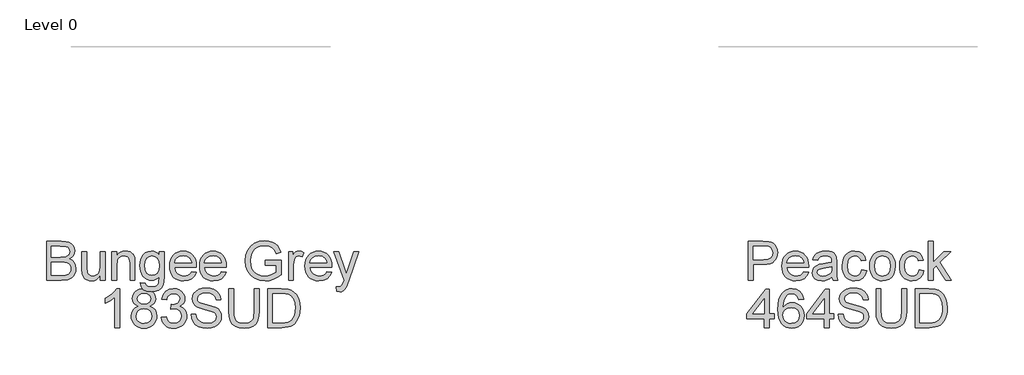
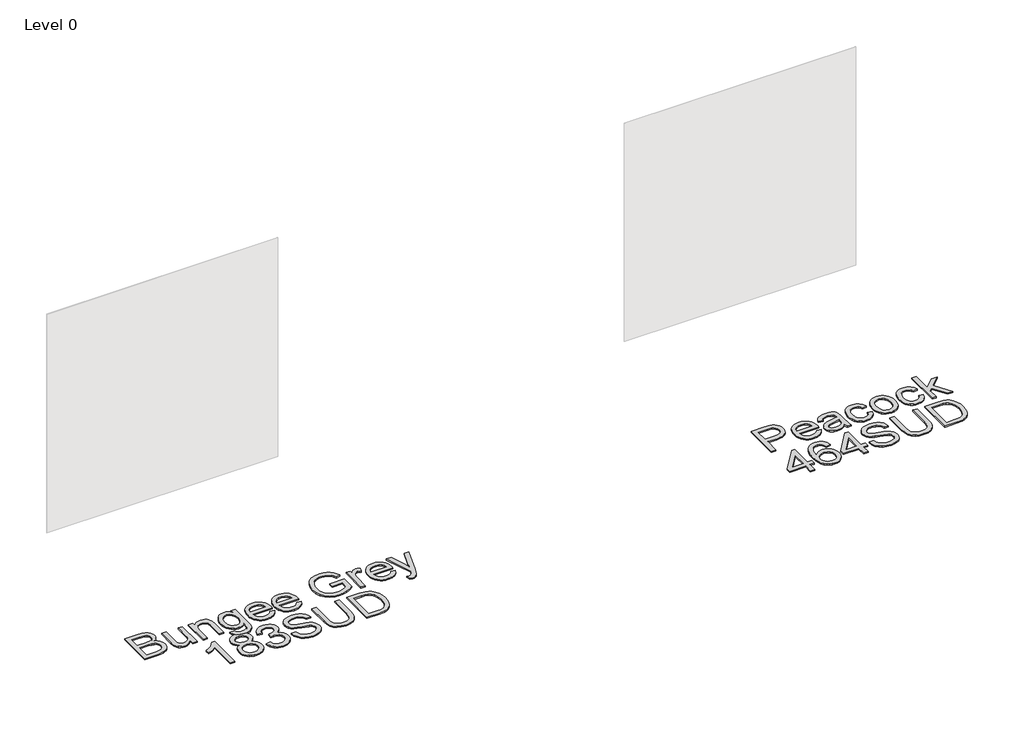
# One storey, part 2 of 37: 2 proxies.
"""IFC4 building model written with IfcOpenShell, lengths in millimetres."""

from ifc_helpers import new_model, si_unit, origin, origin_with_axes, place, context, project, spatial, polyline, outline, extrude, element, save

model = new_model("IFC4")

# Units and contexts
model_context = context("Model", 3, world=origin())
ifc_project = project(units=[si_unit("LENGTHUNIT", "METRE", prefix="MILLI")], contexts=[model_context])

# Site, building, storey
site = spatial("IfcSite", under=ifc_project)
building = spatial("IfcBuilding", under=site)
storey = spatial("IfcBuildingStorey", under=building, Name="Level 0", Elevation=0.0)

# Proxies
placement = place(None, origin())
element("IfcBuildingElementProxy", 1, Name="300mm Arial", ObjectType="300mm Arial", at=placement, inside=storey, context=model_context, shape_type="SweptSolid", body=[
    extrude(outline(polyline([(-10642.0071095, -51871.860494), (-10642.0071095, -51570.4915635), (-10527.0071978, -51570.4915635), (-10495.3785433, -51572.7080526), (-10470.6844643, -51579.3575196), (-10451.7569357, -51590.6055116), (-10437.427932, -51606.6175755), (-10428.405626, -51625.4531336), (-10425.3981907, -51645.1716086), (-10427.9273794, -51663.317388), (-10435.5149456, -51680.3779155), (-10448.2160715, -51695.3047274), (-10466.0859394, -51707.0493601), (-10444.7395866, -51718.1961846), (-10428.9666461, -51735.1555446), (-10419.2269703, -51756.8054), (-10415.9804117, -51782.0237108), (-10418.1969007, -51803.0389697), (-10424.8463677, -51822.5275184), (-10434.7699846, -51839.1006023), (-10446.8089228, -51851.3694668), (-10461.5517938, -51860.253817), (-10479.5872086, -51866.6733578), (-10527.8901146, -51871.860494), (-10642.0071095, -51871.860494)]), holes=[polyline([(-10604.3359932, -51692.9226915), (-10535.5420601, -51692.9226915), (-10495.3693462, -51689.68533), (-10481.3070569, -51684.1027207), (-10471.1994991, -51675.7426024), (-10465.1018551, -51664.7337336), (-10463.069307, -51651.2048733), (-10464.9638993, -51638.071486), (-10470.6476761, -51626.630356), (-10479.8631201, -51617.7000206), (-10492.3527139, -51612.0990172), (-10540.7659844, -51608.1626798), (-10604.3359932, -51608.1626798), (-10604.3359932, -51692.9226915)]), polyline([(-10604.3359932, -51834.1893777), (-10527.0807742, -51834.1893777), (-10499.1217426, -51832.7178497), (-10475.4669303, -51824.5140812), (-10459.7951573, -51807.7754504), (-10455.1874353, -51795.9480443), (-10453.651528, -51782.3915928), (-10455.4541497, -51766.6462434), (-10460.8620151, -51753.1081859), (-10470.3073853, -51742.5223815), (-10484.2225218, -51735.6337912), (-10503.9317996, -51731.8538037), (-10530.7595941, -51730.5938078), (-10604.3359932, -51730.5938078), (-10604.3359932, -51834.1893777)])]), origin_with_axes(), (0.0, 0.0, 1.0), 10.0),
    extrude(outline(polyline([(-10227.6248301, -51871.860494), (-10227.6248301, -51833.8214957), (-10241.254858, -51852.5236966), (-10257.1289661, -51865.8824116), (-10275.2471544, -51873.8976405), (-10295.6094228, -51876.5693835), (-10313.9575373, -51874.6931853), (-10331.036459, -51869.0645908), (-10345.3654627, -51860.6033049), (-10355.4638234, -51850.2290327), (-10366.6842243, -51822.4907302), (-10368.8915163, -51787.4683643), (-10368.8915163, -51650.5426857), (-10331.2204, -51650.5426857), (-10331.2204, -51769.7364521), (-10328.9395316, -51808.1433324), (-10323.4488928, -51820.9548229), (-10314.0403108, -51830.6944987), (-10301.3391849, -51836.8473251), (-10285.9709146, -51838.8982672), (-10269.7197274, -51836.8013398), (-10254.517004, -51830.5105577), (-10241.981425, -51820.605335), (-10233.7316712, -51807.6650858), (-10229.1515404, -51789.9423707), (-10227.6248301, -51765.6897502), (-10227.6248301, -51650.5426857), (-10189.9537138, -51650.5426857), (-10189.9537138, -51871.860494), (-10227.6248301, -51871.860494)])), origin_with_axes(), (0.0, 0.0, 1.0), 10.0),
    extrude(outline(polyline([(-10138.1559289, -51871.860494), (-10138.1559289, -51650.5426857), (-10100.4848126, -51650.5426857), (-10100.4848126, -51681.4447733), (-10087.3974106, -51665.8649708), (-10071.6796524, -51654.7365404), (-10053.3315379, -51648.0594822), (-10032.3530671, -51645.8337961), (-10013.7842234, -51647.6272209), (-9996.7788781, -51653.007495), (-9982.5970272, -51661.303234), (-9972.4986665, -51671.8430532), (-9961.2046892, -51699.5445674), (-9959.2181264, -51735.964885), (-9959.2181264, -51871.860494), (-9996.8892427, -51871.860494), (-9996.8892427, -51741.0416565), (-10001.2302503, -51707.7115477), (-10007.2359239, -51697.7879309), (-10016.5709295, -51690.0900002), (-10028.5362914, -51685.1511844), (-10042.4330337, -51683.5049125), (-10064.4967564, -51687.2021265), (-10083.3047234, -51698.2937687), (-10090.8210124, -51707.3482643), (-10096.1897903, -51719.7228949), (-10100.4848126, -51754.4325611), (-10100.4848126, -51871.860494), (-10138.1559289, -51871.860494)])), origin_with_axes(), (0.0, 0.0, 1.0), 10.0),
    extrude(outline(polyline([(-9916.8381206, -51890.6960521), (-9879.1670043, -51895.4049417), (-9875.0099377, -51907.1771655), (-9866.953322, -51915.2705694), (-9851.1160022, -51921.5613515), (-9830.3858517, -51923.6582789), (-9808.2761438, -51921.28544), (-9791.8318186, -51914.1669234), (-9780.4274768, -51902.7625816), (-9773.4377189, -51887.532267), (-9770.8625449, -51843.6071568), (-9783.3981239, -51855.9679918), (-9797.3868368, -51864.7971597), (-9812.8286835, -51870.0946604), (-9829.7236641, -51871.860494), (-9850.3779389, -51869.8049533), (-9868.5628058, -51863.6383314), (-9884.2782648, -51853.3606281), (-9897.5243158, -51838.9718436), (-9908.0342446, -51821.708981), (-9915.5413366, -51802.8090435), (-9920.0455917, -51782.2720311), (-9921.5470101, -51760.0979438), (-9918.8522745, -51729.6832999), (-9910.7680677, -51701.7150712), (-9897.5794981, -51678.0142737), (-9879.5716745, -51660.4019232), (-9857.360799, -51649.4758279), (-9831.5630741, -51645.8337961), (-9813.9461251, -51647.8939353), (-9797.9570539, -51654.0743528), (-9783.5958605, -51664.3750487), (-9770.8625449, -51678.7960229), (-9770.8625449, -51650.5426857), (-9733.1914286, -51650.5426857), (-9733.1914286, -51841.620594), (-9735.7666026, -51885.7388422), (-9743.4921245, -51914.7923228), (-9756.8002556, -51934.0601423), (-9776.1232574, -51948.8214074), (-9801.0380656, -51958.2023982), (-9831.1216157, -51961.3293952), (-9866.1715728, -51956.9240083), (-9893.7719195, -51943.7078476), (-9904.1668851, -51933.7865301), (-9911.4762405, -51921.644125), (-9915.6999857, -51907.2806323), (-9916.8381206, -51890.6960521)]), holes=[polyline([(-9883.8758938, -51757.5227699), (-9879.856783, -51792.0760863), (-9867.7994506, -51815.8320661), (-9849.6720653, -51829.6000498), (-9827.4427958, -51834.1893777), (-9805.3790731, -51829.6276409), (-9787.1597173, -51815.9424307), (-9774.936838, -51792.4899535), (-9770.8625449, -51758.6264159), (-9775.0563997, -51725.9676917), (-9787.6379639, -51702.4508352), (-9806.1240341, -51688.2413931), (-9828.031407, -51683.5049125), (-9849.5433066, -51688.1678167), (-9867.5787214, -51702.1565296), (-9879.8016007, -51725.3238983), (-9883.8758938, -51757.5227699)])]), origin_with_axes(), (0.0, 0.0, 1.0), 10.0),
    extrude(outline(polyline([(-9521.7328578, -51805.9360404), (-9484.7975055, -51810.64493), (-9498.1056366, -51838.4752029), (-9519.3416248, -51859.2789297), (-9548.0272234, -51872.2467701), (-9583.6841858, -51876.5693835), (-9607.058488, -51874.7046817), (-9627.8852075, -51869.1105761), (-9646.1643441, -51859.7870668), (-9661.8958979, -51846.7341537), (-9674.54644, -51830.3151204), (-9683.5825416, -51810.8932503), (-9689.0042025, -51788.4685435), (-9690.8114228, -51763.0409998), (-9688.9858084, -51736.7512327), (-9683.5089652, -51713.5792656), (-9674.3808931, -51693.5250983), (-9661.6015923, -51676.5887309), (-9645.9114252, -51663.133447), (-9628.0507544, -51653.5225298), (-9608.0195797, -51647.7559796), (-9585.8179013, -51645.8337961), (-9564.3312936, -51647.751381), (-9544.9002264, -51653.5041357), (-9527.5246999, -51663.0920602), (-9512.2047141, -51676.5151545), (-9499.6990255, -51693.4147337), (-9490.7663908, -51713.4321128), (-9485.40681, -51736.5672917), (-9483.6202831, -51762.8202706), (-9483.8410123, -51772.9738137), (-9653.1403065, -51772.9738137), (-9646.6195981, -51801.1719686), (-9631.4720569, -51821.902119), (-9609.6106694, -51834.6492302), (-9582.9484218, -51838.8982672), (-9562.898853, -51836.9300985), (-9546.0130695, -51831.0255925), (-9532.291071, -51820.8168671), (-9521.7328578, -51805.9360404)]), holes=[polyline([(-9653.1403065, -51735.3026974), (-9521.2913994, -51735.3026974), (-9526.386565, -51715.4002814), (-9536.3745612, -51701.1632482), (-9558.3371163, -51687.9194964), (-9585.9650541, -51683.5049125), (-9611.3581089, -51687.0273826), (-9632.3549737, -51697.5947929), (-9646.9506919, -51714.0667092), (-9653.1403065, -51735.3026974)])]), origin_with_axes(), (0.0, 0.0, 1.0), 10.0),
    extrude(outline(polyline([(-9290.9972704, -51805.9360404), (-9254.0619181, -51810.64493), (-9267.3700493, -51838.4752029), (-9288.6060374, -51859.2789297), (-9317.291636, -51872.2467701), (-9352.9485984, -51876.5693835), (-9376.3229007, -51874.7046817), (-9397.1496201, -51869.1105761), (-9415.4287567, -51859.7870668), (-9431.1603106, -51846.7341537), (-9443.8108527, -51830.3151204), (-9452.8469542, -51810.8932503), (-9458.2686151, -51788.4685435), (-9460.0758354, -51763.0409998), (-9458.250221, -51736.7512327), (-9452.7733778, -51713.5792656), (-9443.6453058, -51693.5250983), (-9430.866005, -51676.5887309), (-9415.1758379, -51663.133447), (-9397.315167, -51653.5225298), (-9377.2839924, -51647.7559796), (-9355.082314, -51645.8337961), (-9333.5957062, -51647.751381), (-9314.164639, -51653.5041357), (-9296.7891126, -51663.0920602), (-9281.4691267, -51676.5151545), (-9268.9634382, -51693.4147337), (-9260.0308035, -51713.4321128), (-9254.6712226, -51736.5672917), (-9252.8846957, -51762.8202706), (-9253.1054249, -51772.9738137), (-9422.4047191, -51772.9738137), (-9415.8840107, -51801.1719686), (-9400.7364696, -51821.902119), (-9378.875082, -51834.6492302), (-9352.2128344, -51838.8982672), (-9332.1632657, -51836.9300985), (-9315.2774821, -51831.0255925), (-9301.5554837, -51820.8168671), (-9290.9972704, -51805.9360404)]), holes=[polyline([(-9422.4047191, -51735.3026974), (-9290.555812, -51735.3026974), (-9295.6509776, -51715.4002814), (-9305.6389738, -51701.1632482), (-9327.6015289, -51687.9194964), (-9355.2294668, -51683.5049125), (-9380.6225215, -51687.0273826), (-9401.6193864, -51697.5947929), (-9416.2151045, -51714.0667092), (-9422.4047191, -51735.3026974)])]), origin_with_axes(), (0.0, 0.0, 1.0), 10.0),
    extrude(outline(polyline([(-8951.5157653, -51754.1382555), (-8951.5157653, -51716.4671392), (-8829.0846373, -51716.4671392), (-8829.0846373, -51829.1126061), (-8858.8370936, -51849.8059684), (-8889.5276491, -51864.6500069), (-8921.0827272, -51873.5895394), (-8953.4287516, -51876.5693835), (-8995.6891958, -51871.8329028), (-9033.884544, -51857.6234608), (-9065.6143661, -51834.437698), (-9088.4782321, -51802.7722553), (-9102.301398, -51764.7884393), (-9106.90912, -51722.6475567), (-9102.3197921, -51680.2031715), (-9088.5518085, -51640.7202364), (-9066.1753861, -51607.6016598), (-9035.7607421, -51584.2503502), (-8998.7150252, -51570.399593), (-8956.445384, -51565.782674), (-8925.4145377, -51568.4590155), (-8897.5106884, -51576.4880401), (-8874.0122259, -51589.2903335), (-8856.1975403, -51606.2864817), (-8843.0181678, -51628.295022), (-8833.4256448, -51656.134492), (-8868.1537051, -51665.9201531), (-8875.9068182, -51646.0637224), (-8885.3337943, -51631.0817281), (-8897.804994, -51619.7877509), (-8914.6907775, -51610.9953712), (-8934.8231197, -51605.3391855), (-8957.0339952, -51603.4537903), (-8983.0340552, -51605.4863383), (-9005.2633247, -51611.5839824), (-9023.6390304, -51620.9833674), (-9038.0783987, -51632.9211381), (-9057.4657799, -51661.9470275), (-9066.2949477, -51690.3843058), (-9069.2380037, -51721.1024524), (-9065.6971395, -51757.1272967), (-9055.0745469, -51786.7693885), (-9037.6921226, -51809.8171955), (-9013.8717634, -51826.0591856), (-8985.9955052, -51835.6884968), (-8956.445384, -51838.8982672), (-8930.3533535, -51836.4794431), (-8904.9051165, -51829.2229707), (-8882.8046056, -51819.2257775), (-8866.7557536, -51808.5847908), (-8866.7557536, -51754.1382555), (-8951.5157653, -51754.1382555)])), origin_with_axes(), (0.0, 0.0, 1.0), 10.0),
    extrude(outline(polyline([(-8772.5779628, -51871.860494), (-8772.5779628, -51650.5426857), (-8739.615736, -51650.5426857), (-8739.615736, -51683.2841833), (-8727.438842, -51664.3014723), (-8716.2184411, -51653.1178596), (-8704.9612521, -51647.654812), (-8692.6739934, -51645.8337961), (-8673.9120117, -51648.7400639), (-8654.8557243, -51657.4588672), (-8667.4372886, -51691.2304343), (-8680.6810404, -51685.4362929), (-8693.9247922, -51683.5049125), (-8705.1727842, -51685.3627165), (-8715.2251597, -51690.9361288), (-8723.3461548, -51699.8020848), (-8728.8000054, -51711.5375205), (-8733.3801362, -51732.5803706), (-8734.9068465, -51755.5362071), (-8734.9068465, -51871.860494), (-8772.5779628, -51871.860494)])), origin_with_axes(), (0.0, 0.0, 1.0), 10.0),
    extrude(outline(polyline([(-8476.3593803, -51805.9360404), (-8439.424028, -51810.64493), (-8452.7321591, -51838.4752029), (-8473.9681473, -51859.2789297), (-8502.6537459, -51872.2467701), (-8538.3107083, -51876.5693835), (-8561.6850105, -51874.7046817), (-8582.51173, -51869.1105761), (-8600.7908666, -51859.7870668), (-8616.5224204, -51846.7341537), (-8629.1729626, -51830.3151204), (-8638.2090641, -51810.8932503), (-8643.630725, -51788.4685435), (-8645.4379453, -51763.0409998), (-8643.6123309, -51736.7512327), (-8638.1354877, -51713.5792656), (-8629.0074157, -51693.5250983), (-8616.2281148, -51676.5887309), (-8600.5379478, -51663.133447), (-8582.6772769, -51653.5225298), (-8562.6461022, -51647.7559796), (-8540.4444238, -51645.8337961), (-8518.9578161, -51647.751381), (-8499.5267489, -51653.5041357), (-8482.1512224, -51663.0920602), (-8466.8312366, -51676.5151545), (-8454.325548, -51693.4147337), (-8445.3929133, -51713.4321128), (-8440.0333325, -51736.5672917), (-8438.2468056, -51762.8202706), (-8438.4675348, -51772.9738137), (-8607.766829, -51772.9738137), (-8601.2461206, -51801.1719686), (-8586.0985794, -51821.902119), (-8564.2371919, -51834.6492302), (-8537.5749443, -51838.8982672), (-8517.5253755, -51836.9300985), (-8500.639592, -51831.0255925), (-8486.9175935, -51820.8168671), (-8476.3593803, -51805.9360404)]), holes=[polyline([(-8607.766829, -51735.3026974), (-8475.9179219, -51735.3026974), (-8481.0130875, -51715.4002814), (-8491.0010837, -51701.1632482), (-8512.9636388, -51687.9194964), (-8540.5915766, -51683.5049125), (-8565.9846314, -51687.0273826), (-8586.9814962, -51697.5947929), (-8601.5772144, -51714.0667092), (-8607.766829, -51735.3026974)])]), origin_with_axes(), (0.0, 0.0, 1.0), 10.0),
    extrude(outline(polyline([(-8400.5756893, -51956.6205057), (-8405.2845788, -51920.3473409), (-8386.1547151, -51923.6582789), (-8368.2756501, -51919.5012124), (-8357.3127666, -51907.9129295), (-8347.0120708, -51880.1746271), (-8344.0690148, -51871.0511536), (-8424.120137, -51650.5426857), (-8384.3888815, -51650.5426857), (-8341.9352992, -51773.4152721), (-8327.146443, -51822.5643066), (-8312.3575868, -51779.1542312), (-8268.7267822, -51650.5426857), (-8229.2898323, -51650.5426857), (-8306.3243221, -51877.1579947), (-8326.3371026, -51926.3070293), (-8336.5826162, -51941.9971964), (-8348.1892932, -51952.8681093), (-8361.6721683, -51959.2140737), (-8377.5462764, -51961.3293952), (-8400.5756893, -51956.6205057)])), origin_with_axes(), (0.0, 0.0, 1.0), 10.0),
    extrude(outline(polyline([(-10076.9403649, -52237.7849475), (-10114.6114812, -52237.7849475), (-10114.6114812, -52002.9290818), (-10150.2960347, -52028.3497277), (-10189.9537138, -52047.3692268), (-10189.9537138, -52011.7582497), (-10160.3668044, -51995.6634124), (-10134.7346263, -51976.5151545), (-10114.5287078, -51956.1528861), (-10101.2205766, -51936.4160171), (-10076.9403649, -51936.4160171), (-10076.9403649, -52237.7849475)])), origin_with_axes(), (0.0, 0.0, 1.0), 10.0),
    extrude(outline(polyline([(-9932.58347, -52071.7965913), (-9952.7526004, -52061.8637774), (-9966.9068601, -52048.3992964), (-9975.2669785, -52031.6790597), (-9978.0536846, -52011.9789789), (-9976.5361714, -51996.6153071), (-9971.9836317, -51982.5300252), (-9964.3960655, -51969.7231332), (-9953.7734729, -51958.1946312), (-9940.6262901, -51948.6664875), (-9925.4649534, -51941.8606706), (-9889.0998182, -51936.4160171), (-9852.5139537, -51941.9894293), (-9837.1870701, -51948.9561946), (-9823.8375522, -51958.709666), (-9813.0218216, -51970.4634957), (-9805.2962997, -51983.4313361), (-9800.6609865, -51997.613187), (-9799.1158821, -52013.0090485), (-9801.8658001, -52032.0745329), (-9810.1155538, -52048.509661), (-9823.9571139, -52061.8913686), (-9843.4824508, -52071.7965913), (-9820.296688, -52083.7435591), (-9803.4201015, -52101.3375155), (-9793.1286027, -52123.732332), (-9789.6981031, -52150.0818799), (-9791.3995573, -52168.8714528), (-9796.50392, -52186.0975272), (-9805.0111911, -52201.7601031), (-9816.9213707, -52215.8591806), (-9831.6090594, -52227.5118428), (-9848.4488577, -52235.8351729), (-9867.4407657, -52240.829171), (-9888.5847834, -52242.4938371), (-9909.728801, -52240.8222732), (-9928.720709, -52235.8075818), (-9945.5605074, -52227.4497627), (-9960.248196, -52215.748816), (-9972.1583756, -52201.5508703), (-9980.6656468, -52185.702054), (-9985.7700094, -52168.2023674), (-9987.4714637, -52149.0518103), (-9983.9030083, -52121.6813898), (-9973.1976423, -52099.1670117), (-9955.9071885, -52082.2812282), (-9932.58347, -52071.7965913)]), holes=[polyline([(-9949.8003474, -52147.7274351), (-9943.5095652, -52176.0911369), (-9934.799959, -52188.2588339), (-9921.2527045, -52197.317928), (-9905.0291086, -52202.9465226), (-9888.2904778, -52204.8227207), (-9862.6491027, -52200.8771864), (-9843.4088744, -52189.0405832), (-9831.3791331, -52171.1155329), (-9827.3692194, -52148.9046575), (-9831.5078918, -52126.316703), (-9843.9239092, -52107.9961796), (-9863.6055959, -52095.8560738), (-9889.5412766, -52091.8093718), (-9914.8239667, -52095.8008915), (-9933.871057, -52107.7754504), (-9945.8180248, -52125.7464859), (-9949.8003474, -52147.7274351)]), polyline([(-9940.3825683, -52013.0826249), (-9937.0440392, -52029.52695), (-9927.0284519, -52042.6603373), (-9910.6301119, -52051.268776), (-9888.143325, -52054.1382555), (-9866.1807699, -52051.2871701), (-9850.0307503, -52042.7339137), (-9840.0979364, -52030.0419848), (-9836.7869984, -52014.774882), (-9840.208301, -51998.9283651), (-9850.4722087, -51985.822569), (-9866.8429575, -51977.0209923), (-9888.5847834, -51974.0871334), (-9910.464565, -51976.9566129), (-9926.8077227, -51985.5650516), (-9936.9888569, -51998.1834041), (-9940.3825683, -52013.0826249)])]), origin_with_axes(), (0.0, 0.0, 1.0), 10.0),
    extrude(outline(polyline([(-9756.7358763, -52157.7338254), (-9719.06476, -52153.0249358), (-9710.6310652, -52176.6981422), (-9698.2794273, -52192.6826149), (-9681.4028407, -52201.7876943), (-9659.3943004, -52204.8227207), (-9633.5689843, -52200.6472601), (-9613.6297802, -52188.1208782), (-9600.882669, -52169.4324728), (-9596.633632, -52146.7709419), (-9600.8458808, -52125.2590422), (-9613.4826274, -52107.8122386), (-9632.6124911, -52096.2515469), (-9656.3040916, -52092.397983), (-9682.7180189, -52096.5182614), (-9678.5241641, -52058.8471451), (-9672.4908994, -52059.2886035), (-9649.921339, -52056.5846708), (-9629.7430116, -52048.4728728), (-9615.5059783, -52034.7508744), (-9610.7603006, -52015.2163404), (-9614.1999973, -51998.9467592), (-9624.5190872, -51985.7489926), (-9640.2644366, -51977.0025982), (-9659.9829116, -51974.0871334), (-9679.7381747, -51977.0301893), (-9695.8881943, -51985.8593572), (-9707.6788122, -52000.574637), (-9714.3558705, -52021.1760288), (-9752.0269868, -52016.4671392), (-9740.9353446, -51982.6403898), (-9721.1984756, -51957.3852908), (-9694.1959371, -51941.6583355), (-9661.3072867, -51936.4160171), (-9637.6248833, -51939.0003881), (-9615.8738603, -51946.7535011), (-9597.5349429, -51958.9855775), (-9584.088856, -51975.0068384), (-9575.8391022, -51993.4653175), (-9573.0891843, -52013.0090485), (-9575.7011465, -52031.2192072), (-9583.537033, -52047.7371088), (-9596.4864792, -52061.8085951), (-9614.4391206, -52072.6795081), (-9590.8578847, -52082.2076518), (-9573.3834899, -52098.4312477), (-9562.5677592, -52120.4673793), (-9558.9625157, -52147.4331295), (-9560.7651375, -52166.5445992), (-9566.1730028, -52184.1477526), (-9575.1861117, -52200.2425899), (-9587.8044641, -52214.829111), (-9603.177333, -52226.9324287), (-9620.4539912, -52235.5776555), (-9639.6344387, -52240.7647917), (-9660.7186756, -52242.4938371), (-9679.7749629, -52241.0177105), (-9697.1389931, -52236.589331), (-9712.8107661, -52229.2086985), (-9726.7902819, -52218.875813), (-9738.511922, -52206.1976797), (-9747.4100677, -52191.781304), (-9753.4847192, -52175.6266859), (-9756.7358763, -52157.7338254)])), origin_with_axes(), (0.0, 0.0, 1.0), 10.0),
    extrude(outline(polyline([(-9526.0002889, -52134.1893777), (-9488.3291726, -52134.1893777), (-9484.0065592, -52155.0942721), (-9476.1890668, -52171.8972822), (-9463.9937786, -52185.2330045), (-9446.537778, -52195.7360355), (-9425.2006222, -52202.5510494), (-9401.361869, -52204.8227207), (-9380.3742011, -52203.1028724), (-9361.9984955, -52197.9433274), (-9347.1084717, -52189.7763471), (-9336.5778496, -52179.0341929), (-9330.3146586, -52166.700949), (-9328.2269283, -52153.7606998), (-9329.7904268, -52141.1515444), (-9334.4809222, -52130.2530403), (-9344.0090659, -52120.9548229), (-9360.0855091, -52113.1465276), (-9414.9367146, -52098.7623415), (-9450.9431649, -52089.2433949), (-9473.9817748, -52080.1843008), (-9492.7345595, -52067.510766), (-9506.0242966, -52052.1516928), (-9513.9429565, -52034.4381747), (-9516.5825098, -52014.7013056), (-9513.3175571, -51992.637583), (-9503.522699, -51972.0637824), (-9487.4554529, -51954.6261758), (-9465.3733361, -51941.9710352), (-9438.8674384, -51934.2731044), (-9409.5288492, -51931.7071275), (-9377.7438449, -51934.3926661), (-9349.931966, -51942.4492818), (-9327.0864941, -51955.7114277), (-9310.2007105, -51974.013557), (-9299.5137386, -51996.2152354), (-9295.2647015, -52021.1760288), (-9332.9358179, -52021.1760288), (-9339.8519994, -51998.6984389), (-9354.2729736, -51982.4748429), (-9376.8057458, -51972.6523936), (-9408.0573213, -51969.3782438), (-9440.0446607, -51972.6156054), (-9461.9888218, -51982.3276901), (-9474.6807506, -51996.6199056), (-9478.9113935, -52013.5976597), (-9475.9131553, -52028.0738162), (-9466.9184405, -52039.7172813), (-9445.6548612, -52050.1283418), (-9405.4085709, -52060.7601314), (-9363.8746936, -52070.8584922), (-9338.7483534, -52079.669266), (-9317.2732419, -52093.3360821), (-9302.2912477, -52110.2034716), (-9293.4896709, -52130.0874934), (-9290.555812, -52152.8042066), (-9293.9311293, -52176.0267576), (-9304.0570812, -52197.869751), (-9320.5198005, -52216.668521), (-9342.9054199, -52230.7584014), (-9369.8251849, -52239.5599781), (-9399.890341, -52242.4938371), (-9436.7981021, -52239.3300519), (-9467.1759579, -52229.8386964), (-9491.3733961, -52213.9829824), (-9509.7399047, -52191.7261217), (-9521.5305227, -52164.6132187), (-9526.0002889, -52134.1893777)])), origin_with_axes(), (0.0, 0.0, 1.0), 10.0),
    extrude(outline(polyline([(-9036.2757769, -51936.4160171), (-8998.6046606, -51936.4160171), (-8998.6046606, -52110.277048), (-9001.1614405, -52150.9923878), (-9008.8317801, -52182.3451308), (-9023.1607838, -52206.533372), (-9045.693556, -52225.7552063), (-9076.485279, -52238.3091794), (-9115.5911351, -52242.4938371), (-9153.8416655, -52238.8518053), (-9184.4218564, -52227.92571), (-9207.3409047, -52210.0926303), (-9222.6080075, -52185.7296452), (-9231.188855, -52153.052527), (-9234.0491375, -52110.277048), (-9234.0491375, -51936.4160171), (-9196.3780212, -51936.4160171), (-9196.3780212, -52108.9526728), (-9194.5202172, -52142.8070134), (-9188.9468049, -52166.3790523), (-9178.8484442, -52182.7038158), (-9163.4157945, -52194.8163305), (-9143.2926493, -52202.3211232), (-9119.1228023, -52204.8227207), (-9080.8078925, -52199.8747079), (-9066.4650932, -52193.6896919), (-9055.3320643, -52185.0306694), (-9046.9949386, -52172.8537754), (-9041.0398488, -52156.1151446), (-9036.2757769, -52108.9526728), (-9036.2757769, -51936.4160171)])), origin_with_axes(), (0.0, 0.0, 1.0), 10.0),
    extrude(outline(polyline([(-8932.6802071, -52237.7849475), (-8932.6802071, -51936.4160171), (-8828.7167553, -51936.4160171), (-8774.9324076, -51940.7570246), (-8750.9097133, -51949.12634), (-8730.6394153, -51962.3149095), (-8709.7989003, -51985.270746), (-8694.9548618, -52013.8183889), (-8686.0705116, -52047.406015), (-8683.1090616, -52085.4818015), (-8685.1140184, -52117.8278259), (-8691.1288891, -52146.2926953), (-8700.2891507, -52170.5269217), (-8711.7302808, -52190.1810173), (-8724.9004562, -52205.6964405), (-8739.247854, -52217.5146496), (-8755.7197704, -52226.2794381), (-8775.2635014, -52232.6345996), (-8823.7135601, -52237.7849475), (-8932.6802071, -52237.7849475)]), holes=[polyline([(-8895.0090908, -52200.1138312), (-8828.3488733, -52200.1138312), (-8800.7761177, -52198.7526678), (-8779.8620263, -52194.6691777), (-8764.0798887, -52188.1024841), (-8751.9029947, -52179.2917103), (-8738.8155927, -52162.9853408), (-8728.9839464, -52141.8781114), (-8722.83112, -52115.8780514), (-8720.7801779, -52084.8931903), (-8724.7992887, -52043.8375597), (-8736.8566211, -52013.5240833), (-8754.6713067, -51992.7019623), (-8775.9624772, -51980.1203981), (-8797.6307267, -51975.5954496), (-8829.3789429, -51974.0871334), (-8895.0090908, -51974.0871334), (-8895.0090908, -52200.1138312)])]), origin_with_axes(), (0.0, 0.0, 1.0), 10.0),
])
element("IfcBuildingElementProxy", 2, Name="300mm Arial", ObjectType="300mm Arial", at=placement, inside=storey, context=model_context, shape_type="SweptSolid", body=[
    extrude(outline(polyline([(-5220.5614958, -51871.860494), (-5220.5614958, -51570.4915635), (-5108.8725221, -51570.4915635), (-5063.8437659, -51573.3610431), (-5043.766606, -51578.7229232), (-5027.2395073, -51587.4509235), (-5013.9313762, -51599.9405172), (-5003.5111187, -51616.5871775), (-4996.7788781, -51636.222879), (-4994.534798, -51657.6795964), (-4996.0500119, -51676.1794622), (-5000.5956538, -51693.198603), (-5008.1717237, -51708.7370188), (-5018.7782215, -51722.7947095), (-5033.3394507, -51734.4473717), (-5052.7797149, -51742.7707019), (-5077.099014, -51747.7647), (-5106.2973481, -51749.429366), (-5182.8903795, -51749.429366), (-5182.8903795, -51871.860494), (-5220.5614958, -51871.860494)]), holes=[polyline([(-5182.8903795, -51711.7582497), (-5104.0900561, -51711.7582497), (-5070.686371, -51708.3001589), (-5048.6134513, -51697.9258867), (-5036.3077985, -51681.2792264), (-5032.2059143, -51659.0039716), (-5034.6247384, -51642.0813998), (-5041.8812108, -51627.8075784), (-5053.0740205, -51617.0654241), (-5067.3018566, -51610.7378538), (-5104.9729729, -51608.1626798), (-5182.8903795, -51608.1626798), (-5182.8903795, -51711.7582497)])]), origin_with_axes(), (0.0, 0.0, 1.0), 10.0),
    extrude(outline(polyline([(-4792.4940062, -51805.9360404), (-4755.5586539, -51810.64493), (-4768.8667851, -51838.4752029), (-4790.1027733, -51859.2789297), (-4818.7883718, -51872.2467701), (-4854.4453342, -51876.5693835), (-4877.8196365, -51874.7046817), (-4898.6463559, -51869.1105761), (-4916.9254926, -51859.7870668), (-4932.6570464, -51846.7341537), (-4945.3075885, -51830.3151204), (-4954.34369, -51810.8932503), (-4959.7653509, -51788.4685435), (-4961.5725712, -51763.0409998), (-4959.7469568, -51736.7512327), (-4954.2701136, -51713.5792656), (-4945.1420416, -51693.5250983), (-4932.3627408, -51676.5887309), (-4916.6725737, -51663.133447), (-4898.8119028, -51653.5225298), (-4878.7807282, -51647.7559796), (-4856.5790498, -51645.8337961), (-4835.092442, -51647.751381), (-4815.6613749, -51653.5041357), (-4798.2858484, -51663.0920602), (-4782.9658626, -51676.5151545), (-4770.460174, -51693.4147337), (-4761.5275393, -51713.4321128), (-4756.1679585, -51736.5672917), (-4754.3814315, -51762.8202706), (-4754.6021607, -51772.9738137), (-4923.9014549, -51772.9738137), (-4917.3807465, -51801.1719686), (-4902.2332054, -51821.902119), (-4880.3718178, -51834.6492302), (-4853.7095702, -51838.8982672), (-4833.6600015, -51836.9300985), (-4816.7742179, -51831.0255925), (-4803.0522195, -51820.8168671), (-4792.4940062, -51805.9360404)]), holes=[polyline([(-4923.9014549, -51735.3026974), (-4792.0525478, -51735.3026974), (-4797.1477135, -51715.4002814), (-4807.1357096, -51701.1632482), (-4829.0982647, -51687.9194964), (-4856.7262026, -51683.5049125), (-4882.1192573, -51687.0273826), (-4903.1161222, -51697.5947929), (-4917.7118403, -51714.0667092), (-4923.9014549, -51735.3026974)])]), origin_with_axes(), (0.0, 0.0, 1.0), 10.0),
    extrude(outline(polyline([(-4575.4436291, -51843.6071568), (-4593.4422557, -51859.0398064), (-4611.9743112, -51869.1381672), (-4631.4628599, -51874.7115794), (-4652.3309661, -51876.5693835), (-4683.8124678, -51872.0996173), (-4707.0350187, -51858.6903186), (-4721.3548254, -51838.3280501), (-4726.1280943, -51812.9993748), (-4724.3254725, -51797.3827841), (-4718.9176072, -51783.2009331), (-4710.5758829, -51771.0608273), (-4699.9716844, -51761.5694718), (-4673.5945454, -51749.2086368), (-4641.0002006, -51743.5432541), (-4602.4829557, -51737.5835657), (-4575.6643583, -51730.5938078), (-4575.4436291, -51722.2060983), (-4578.0371971, -51705.3938912), (-4585.8179013, -51694.3942195), (-4603.2187197, -51686.2272392), (-4627.4621432, -51683.5049125), (-4649.9029449, -51685.3167313), (-4665.5747179, -51690.7521878), (-4676.2616898, -51700.8045633), (-4683.7480885, -51716.4671392), (-4721.4192048, -51711.7582497), (-4714.8801023, -51691.1568579), (-4705.1220324, -51674.9700502), (-4691.2344871, -51662.590821), (-4672.3069584, -51653.4121652), (-4649.1579839, -51647.7283884), (-4622.6061009, -51645.8337961), (-4597.1394697, -51647.5076592), (-4576.9519453, -51652.5292485), (-4561.7308277, -51660.0800264), (-4551.1634174, -51669.3414556), (-4544.1552654, -51680.7917827), (-4539.6119227, -51694.9092543), (-4537.7725128, -51727.8714811), (-4537.7725128, -51774.7396473), (-4535.8595264, -51840.1858542), (-4528.3547337, -51871.860494), (-4566.02585, -51871.860494), (-4575.4436291, -51843.6071568)]), holes=[polyline([(-4575.4436291, -51768.2649241), (-4636.2177347, -51779.8164188), (-4668.6281384, -51785.9232599), (-4683.3066301, -51795.8560738), (-4688.456978, -51810.3506244), (-4685.6518778, -51821.5526311), (-4677.2365771, -51830.7312869), (-4663.3950171, -51836.8565221), (-4644.3111386, -51838.8982672), (-4624.0776288, -51836.64499), (-4606.1985639, -51829.8851583), (-4591.7040133, -51819.9247533), (-4581.6240466, -51808.069756), (-4577.1542803, -51795.8560738), (-4575.6643583, -51778.933502), (-4575.4436291, -51768.2649241)])]), origin_with_axes(), (0.0, 0.0, 1.0), 10.0),
    extrude(outline(polyline([(-4344.7080417, -51791.8093718), (-4307.0369254, -51796.5182614), (-4317.5399564, -51830.0231141), (-4337.2768254, -51855.3425924), (-4364.3897284, -51871.2626857), (-4397.0208614, -51876.5693835), (-4418.1487842, -51874.7184772), (-4437.0924077, -51869.1657584), (-4453.8517319, -51859.9112269), (-4468.4267567, -51846.9548829), (-4480.2242724, -51830.5404481), (-4488.6510694, -51810.9116444), (-4493.7071475, -51788.0684718), (-4495.3925069, -51762.0109302), (-4492.5138303, -51728.4876834), (-4483.8778005, -51699.4342028), (-4469.3464617, -51675.9725286), (-4448.7818581, -51659.2247008), (-4424.1797497, -51649.1815223), (-4397.5358962, -51645.8337961), (-4365.7049066, -51650.4323211), (-4340.2566696, -51664.2278959), (-4322.0005255, -51686.4847566), (-4311.7458149, -51716.4671392), (-4349.4169312, -51721.1760288), (-4356.2503393, -51704.7409006), (-4366.891326, -51692.9594797), (-4380.7512802, -51685.8685543), (-4397.2415906, -51683.5049125), (-4421.5861816, -51688.1586197), (-4440.9091834, -51702.1197414), (-4453.5183388, -51726.1424357), (-4457.7213906, -51760.9808606), (-4453.6103093, -51796.2883351), (-4441.2770654, -51820.3938029), (-4422.3035515, -51834.2721511), (-4398.2716602, -51838.8982672), (-4378.7647174, -51836.0103936), (-4362.7710477, -51827.3467726), (-4351.1367796, -51812.6866751), (-4344.7080417, -51791.8093718)])), origin_with_axes(), (0.0, 0.0, 1.0), 10.0),
    extrude(outline(polyline([(-4283.4924777, -51761.2015898), (-4281.4553312, -51732.5389839), (-4275.3438915, -51707.8403064), (-4265.1581588, -51687.1055575), (-4250.8981329, -51670.334737), (-4236.5415381, -51659.6155754), (-4220.6950211, -51651.9590314), (-4203.3585821, -51647.3651049), (-4184.532221, -51645.8337961), (-4163.7491875, -51647.698498), (-4144.9573154, -51653.2926036), (-4128.1566045, -51662.6161129), (-4113.3470549, -51675.669026), (-4101.2598321, -51692.0098843), (-4092.6261016, -51711.1972296), (-4087.4458632, -51733.2310619), (-4085.7191171, -51758.1113811), (-4088.7725377, -51796.1687735), (-4097.9327993, -51825.1394806), (-4112.9331877, -51846.8353213), (-4133.5069883, -51863.0681143), (-4157.9435498, -51873.1940662), (-4184.532221, -51876.5693835), (-4205.6187571, -51874.7115794), (-4224.5853732, -51869.1381672), (-4241.4320693, -51859.8491468), (-4256.1588455, -51846.8445183), (-4268.1173096, -51830.3450108), (-4276.6590696, -51810.5713536), (-4281.7841257, -51787.5235466), (-4283.4924777, -51761.2015898)]), holes=[polyline([(-4245.8213614, -51761.1280134), (-4241.4619598, -51795.2214773), (-4228.3837548, -51819.5108861), (-4208.7020681, -51834.0514219), (-4184.532221, -51838.8982672), (-4160.4727385, -51834.0238308), (-4140.82784, -51819.4005215), (-4127.749635, -51794.789216), (-4123.3902334, -51759.950791), (-4127.7772262, -51726.8506085), (-4140.9382046, -51702.8922936), (-4160.6106943, -51688.3517577), (-4184.532221, -51683.5049125), (-4208.7020681, -51688.3333636), (-4228.3837548, -51702.8187172), (-4241.4619598, -51727.0529436), (-4245.8213614, -51761.1280134)])]), origin_with_axes(), (0.0, 0.0, 1.0), 10.0),
    extrude(outline(polyline([(-3902.0724251, -51791.8093718), (-3864.4013088, -51796.5182614), (-3874.9043398, -51830.0231141), (-3894.6412088, -51855.3425924), (-3921.7541118, -51871.2626857), (-3954.3852448, -51876.5693835), (-3975.5131676, -51874.7184772), (-3994.4567911, -51869.1657584), (-4011.2161153, -51859.9112269), (-4025.7911401, -51846.9548829), (-4037.5886558, -51830.5404481), (-4046.0154528, -51810.9116444), (-4051.0715309, -51788.0684718), (-4052.7568903, -51762.0109302), (-4049.8782137, -51728.4876834), (-4041.2421839, -51699.4342028), (-4026.7108451, -51675.9725286), (-4006.1462415, -51659.2247008), (-3981.5441331, -51649.1815223), (-3954.9002796, -51645.8337961), (-3923.06929, -51650.4323211), (-3897.621053, -51664.2278959), (-3879.3649089, -51686.4847566), (-3869.1101983, -51716.4671392), (-3906.7813146, -51721.1760288), (-3913.6147227, -51704.7409006), (-3924.2557094, -51692.9594797), (-3938.1156636, -51685.8685543), (-3954.605974, -51683.5049125), (-3978.950565, -51688.1586197), (-3998.2735668, -51702.1197414), (-4010.8827222, -51726.1424357), (-4015.085774, -51760.9808606), (-4010.9746927, -51796.2883351), (-3998.6414488, -51820.3938029), (-3979.6679349, -51834.2721511), (-3955.6360436, -51838.8982672), (-3936.1291008, -51836.0103936), (-3920.1354311, -51827.3467726), (-3908.501163, -51812.6866751), (-3902.0724251, -51791.8093718)])), origin_with_axes(), (0.0, 0.0, 1.0), 10.0),
    extrude(outline(polyline([(-3831.439082, -51871.860494), (-3831.439082, -51570.4915635), (-3793.7679657, -51570.4915635), (-3793.7679657, -51732.4332178), (-3709.3022596, -51650.5426857), (-3657.2101691, -51650.5426857), (-3742.7059448, -51733.4632874), (-3652.5012796, -51871.860494), (-3696.4999662, -51871.860494), (-3769.7084832, -51759.6564855), (-3793.7679657, -51782.9802039), (-3793.7679657, -51871.860494), (-3831.439082, -51871.860494)])), origin_with_axes(), (0.0, 0.0, 1.0), 10.0),
    extrude(outline(polyline([(-5095.775923, -52237.7849475), (-5095.775923, -52167.1516044), (-5232.3337197, -52167.1516044), (-5232.3337197, -52129.4804881), (-5086.358144, -51941.1249066), (-5058.1048067, -51941.1249066), (-5058.1048067, -52129.4804881), (-5020.4336904, -52129.4804881), (-5020.4336904, -52167.1516044), (-5058.1048067, -52167.1516044), (-5058.1048067, -52237.7849475), (-5095.775923, -52237.7849475)]), holes=[polyline([(-5095.775923, -52129.4804881), (-5095.775923, -52013.0826249), (-5185.9805883, -52129.4804881), (-5095.775923, -52129.4804881)])]), origin_with_axes(), (0.0, 0.0, 1.0), 10.0),
    extrude(outline(polyline([(-4794.4069926, -52016.4671392), (-4832.0781089, -52021.1760288), (-4838.1481618, -52002.5060175), (-4846.3519303, -51989.7589064), (-4863.440049, -51978.0050766), (-4884.096623, -51974.0871334), (-4901.607806, -51976.3680017), (-4918.0889194, -51983.2106069), (-4932.2431791, -51997.622384), (-4943.8038708, -52017.4604206), (-4951.6121662, -52045.5206198), (-4954.5092369, -52084.5988847), (-4939.3984839, -52066.9681401), (-4921.2894927, -52054.5429257), (-4901.1939388, -52047.1760888), (-4880.1234975, -52044.7204764), (-4862.0237033, -52046.3989381), (-4845.3218607, -52051.4343229), (-4830.0179697, -52059.8266309), (-4816.1120303, -52071.5758621), (-4804.5559371, -52085.9830407), (-4796.3015849, -52102.349191), (-4791.3489735, -52120.6743129), (-4789.6981031, -52140.9584064), (-4792.8067059, -52167.9333537), (-4802.1325145, -52192.9401323), (-4816.9029766, -52214.1485293), (-4836.3455401, -52229.7283318), (-4859.577288, -52239.3024607), (-4885.7153038, -52242.4938371), (-4908.1722003, -52240.3785156), (-4928.4539946, -52234.0325512), (-4946.5606865, -52223.4559438), (-4962.4922762, -52208.6486935), (-4975.4808099, -52188.9854009), (-4984.758334, -52163.8406665), (-4990.3248484, -52133.2144904), (-4992.1803532, -52097.1068726), (-4990.120214, -52056.6260575), (-4983.9397965, -52022.0773396), (-4973.6391007, -51993.4607189), (-4959.2181264, -51970.7761954), (-4943.5877402, -51955.7436174), (-4925.4649534, -51945.0060617), (-4904.8497661, -51938.5635282), (-4881.7421783, -51936.4160171), (-4848.687981, -51941.7319119), (-4822.2188714, -51957.6795964), (-4803.6776189, -51983.0082718), (-4794.4069926, -52016.4671392)]), holes=[polyline([(-4954.5092369, -52140.3697952), (-4952.3295361, -52157.0624407), (-4945.7904336, -52173.0009282), (-4935.6368905, -52186.7045325), (-4922.6138679, -52196.6925287), (-4906.8961097, -52202.7901727), (-4888.6583598, -52204.8227207), (-4863.7987339, -52200.6104719), (-4844.2550029, -52187.9737254), (-4831.5906653, -52168.1080976), (-4827.3692194, -52142.2092052), (-4831.535483, -52117.3495793), (-4844.0342738, -52098.3944595), (-4863.9090985, -52086.3923095), (-4890.2034641, -52082.3915928), (-4915.0263018, -52086.3923095), (-4935.7840433, -52098.3944595), (-4949.8279385, -52116.8897269), (-4954.5092369, -52140.3697952)])]), origin_with_axes(), (0.0, 0.0, 1.0), 10.0),
    extrude(outline(polyline([(-4634.3047483, -52237.7849475), (-4634.3047483, -52167.1516044), (-4770.8625449, -52167.1516044), (-4770.8625449, -52129.4804881), (-4624.8869692, -51941.1249066), (-4596.633632, -51941.1249066), (-4596.633632, -52129.4804881), (-4558.9625157, -52129.4804881), (-4558.9625157, -52167.1516044), (-4596.633632, -52167.1516044), (-4596.633632, -52237.7849475), (-4634.3047483, -52237.7849475)]), holes=[polyline([(-4634.3047483, -52129.4804881), (-4634.3047483, -52013.0826249), (-4724.5094135, -52129.4804881), (-4634.3047483, -52129.4804881)])]), origin_with_axes(), (0.0, 0.0, 1.0), 10.0),
    extrude(outline(polyline([(-4526.0002889, -52134.1893777), (-4488.3291726, -52134.1893777), (-4484.0065592, -52155.0942721), (-4476.1890668, -52171.8972822), (-4463.9937786, -52185.2330045), (-4446.537778, -52195.7360355), (-4425.2006222, -52202.5510494), (-4401.361869, -52204.8227207), (-4380.3742011, -52203.1028724), (-4361.9984955, -52197.9433274), (-4347.1084717, -52189.7763471), (-4336.5778496, -52179.0341929), (-4330.3146586, -52166.700949), (-4328.2269283, -52153.7606998), (-4329.7904268, -52141.1515444), (-4334.4809222, -52130.2530403), (-4344.0090659, -52120.9548229), (-4360.0855091, -52113.1465276), (-4414.9367146, -52098.7623415), (-4450.9431649, -52089.2433949), (-4473.9817748, -52080.1843008), (-4492.7345595, -52067.510766), (-4506.0242966, -52052.1516928), (-4513.9429565, -52034.4381747), (-4516.5825098, -52014.7013056), (-4513.3175571, -51992.637583), (-4503.522699, -51972.0637824), (-4487.4554529, -51954.6261758), (-4465.3733361, -51941.9710352), (-4438.8674384, -51934.2731044), (-4409.5288492, -51931.7071275), (-4377.7438449, -51934.3926661), (-4349.931966, -51942.4492818), (-4327.0864941, -51955.7114277), (-4310.2007105, -51974.013557), (-4299.5137386, -51996.2152354), (-4295.2647015, -52021.1760288), (-4332.9358179, -52021.1760288), (-4339.8519994, -51998.6984389), (-4354.2729736, -51982.4748429), (-4376.8057458, -51972.6523936), (-4408.0573213, -51969.3782438), (-4440.0446607, -51972.6156054), (-4461.9888218, -51982.3276901), (-4474.6807506, -51996.6199056), (-4478.9113935, -52013.5976597), (-4475.9131553, -52028.0738162), (-4466.9184405, -52039.7172813), (-4445.6548612, -52050.1283418), (-4405.4085709, -52060.7601314), (-4363.8746936, -52070.8584922), (-4338.7483534, -52079.669266), (-4317.2732419, -52093.3360821), (-4302.2912477, -52110.2034716), (-4293.4896709, -52130.0874934), (-4290.555812, -52152.8042066), (-4293.9311293, -52176.0267576), (-4304.0570812, -52197.869751), (-4320.5198005, -52216.668521), (-4342.9054199, -52230.7584014), (-4369.8251849, -52239.5599781), (-4399.890341, -52242.4938371), (-4436.7981021, -52239.3300519), (-4467.1759579, -52229.8386964), (-4491.3733961, -52213.9829824), (-4509.7399047, -52191.7261217), (-4521.5305227, -52164.6132187), (-4526.0002889, -52134.1893777)])), origin_with_axes(), (0.0, 0.0, 1.0), 10.0),
    extrude(outline(polyline([(-4036.2757769, -51936.4160171), (-3998.6046606, -51936.4160171), (-3998.6046606, -52110.277048), (-4001.1614405, -52150.9923878), (-4008.8317801, -52182.3451308), (-4023.1607838, -52206.533372), (-4045.693556, -52225.7552063), (-4076.485279, -52238.3091794), (-4115.5911351, -52242.4938371), (-4153.8416655, -52238.8518053), (-4184.4218564, -52227.92571), (-4207.3409047, -52210.0926303), (-4222.6080075, -52185.7296452), (-4231.188855, -52153.052527), (-4234.0491375, -52110.277048), (-4234.0491375, -51936.4160171), (-4196.3780212, -51936.4160171), (-4196.3780212, -52108.9526728), (-4194.5202172, -52142.8070134), (-4188.9468049, -52166.3790523), (-4178.8484442, -52182.7038158), (-4163.4157945, -52194.8163305), (-4143.2926493, -52202.3211232), (-4119.1228023, -52204.8227207), (-4080.8078925, -52199.8747079), (-4066.4650932, -52193.6896919), (-4055.3320643, -52185.0306694), (-4046.9949386, -52172.8537754), (-4041.0398488, -52156.1151446), (-4036.2757769, -52108.9526728), (-4036.2757769, -51936.4160171)])), origin_with_axes(), (0.0, 0.0, 1.0), 10.0),
    extrude(outline(polyline([(-3932.6802071, -52237.7849475), (-3932.6802071, -51936.4160171), (-3828.7167553, -51936.4160171), (-3774.9324076, -51940.7570246), (-3750.9097133, -51949.12634), (-3730.6394153, -51962.3149095), (-3709.7989003, -51985.270746), (-3694.9548618, -52013.8183889), (-3686.0705116, -52047.406015), (-3683.1090616, -52085.4818015), (-3685.1140184, -52117.8278259), (-3691.1288891, -52146.2926953), (-3700.2891507, -52170.5269217), (-3711.7302808, -52190.1810173), (-3724.9004562, -52205.6964405), (-3739.247854, -52217.5146496), (-3755.7197704, -52226.2794381), (-3775.2635014, -52232.6345996), (-3823.7135601, -52237.7849475), (-3932.6802071, -52237.7849475)]), holes=[polyline([(-3895.0090908, -52200.1138312), (-3828.3488733, -52200.1138312), (-3800.7761177, -52198.7526678), (-3779.8620263, -52194.6691777), (-3764.0798887, -52188.1024841), (-3751.9029947, -52179.2917103), (-3738.8155927, -52162.9853408), (-3728.9839464, -52141.8781114), (-3722.83112, -52115.8780514), (-3720.7801779, -52084.8931903), (-3724.7992887, -52043.8375597), (-3736.8566211, -52013.5240833), (-3754.6713067, -51992.7019623), (-3775.9624772, -51980.1203981), (-3797.6307267, -51975.5954496), (-3829.3789429, -51974.0871334), (-3895.0090908, -51974.0871334), (-3895.0090908, -52200.1138312)])]), origin_with_axes(), (0.0, 0.0, 1.0), 10.0),
])

save(model, "model.ifc")
